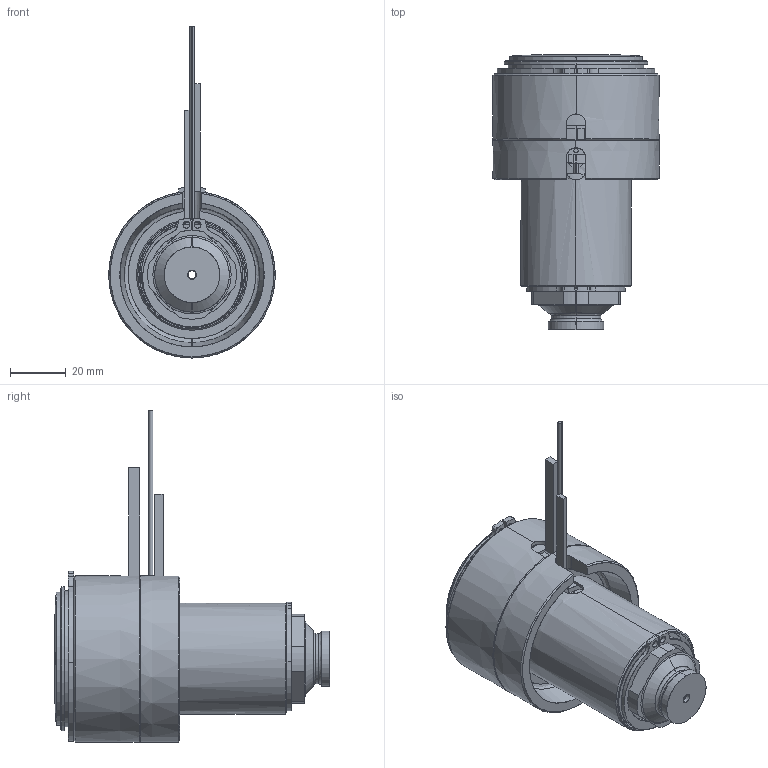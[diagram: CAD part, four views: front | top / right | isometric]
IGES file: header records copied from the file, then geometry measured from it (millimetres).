
Start section: SolidWorks IGES file using analytic representation for surfaces
Global section: file name: C:\Documents and Settings\ws-20\Desktop\TEM\UGER6602-M-A-1 [Øb-2.9 P-0 ØC-15].IGS; native system: SolidWorks 2012; preprocessor: SolidWorks 2012; author: ws-20; date: 120417.115517; units: millimetre
Bounding box: 60 x 99.25 x 119.65 mm (x, y, z)
Surface area: 59600.6 mm2 (no closed solid volume)
Topology: 0 solids, 0 shells, 173 faces, 3354 edges, 3354 vertices
Faces by surface type: revolution 103, bspline 70
